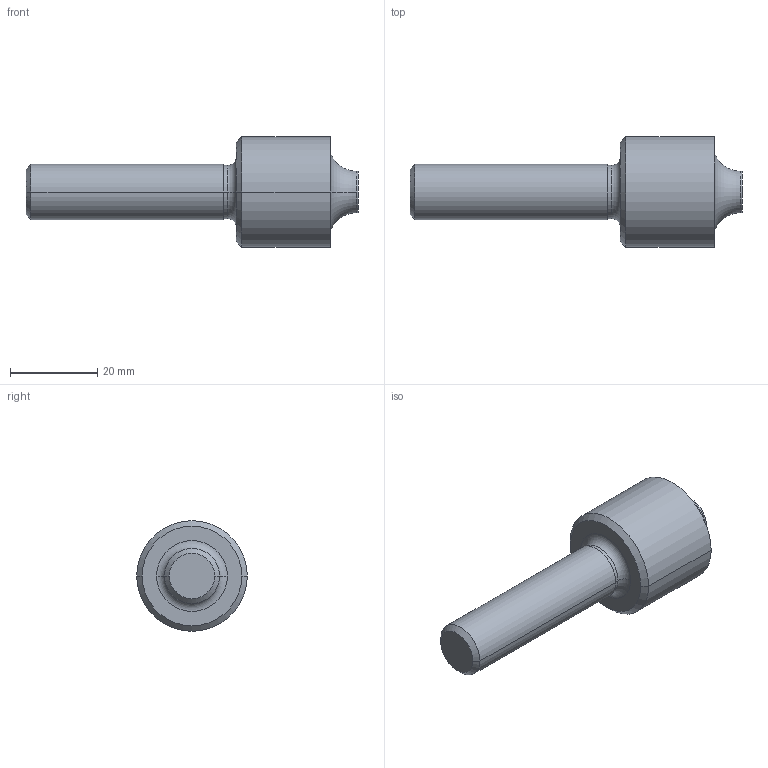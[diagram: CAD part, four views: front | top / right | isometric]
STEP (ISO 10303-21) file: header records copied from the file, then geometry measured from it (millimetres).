
FILE_DESCRIPTION (( 'STEP AP214' ), '1' );
FILE_NAME ('2_NEW_EQ237016.STEP', '2022-01-28T01:55:10', ( 'USER' ), ( '' ), 'SwSTEP 2.0', 'SolidWorks 2014', '' );
FILE_SCHEMA (( 'AUTOMOTIVE_DESIGN' ));
Length unit declared in the file: millimetre
Products named in the file (1): 2_NEW_EQ237016
Bounding box: 76.2 x 25.4 x 25.4 mm (x, y, z)
Volume: 17681.6 mm3; surface area: 4690 mm2
Topology: 1 solids, 1 shells, 21 faces, 40 edges, 24 vertices
Faces by surface type: cylinder 8, plane 5, cone 4, torus 4
Entity records: 572 total; most frequent: DIRECTION 112, CARTESIAN_POINT 86, ORIENTED_EDGE 80, AXIS2_PLACEMENT_3D 50, EDGE_CURVE 40, CIRCLE 28, EDGE_LOOP 24, VERTEX_POINT 24
